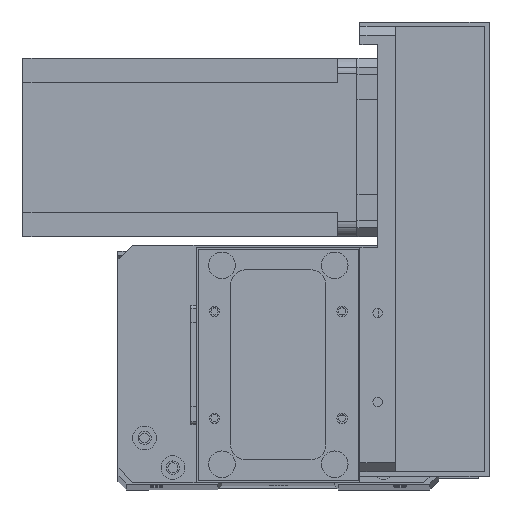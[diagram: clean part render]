
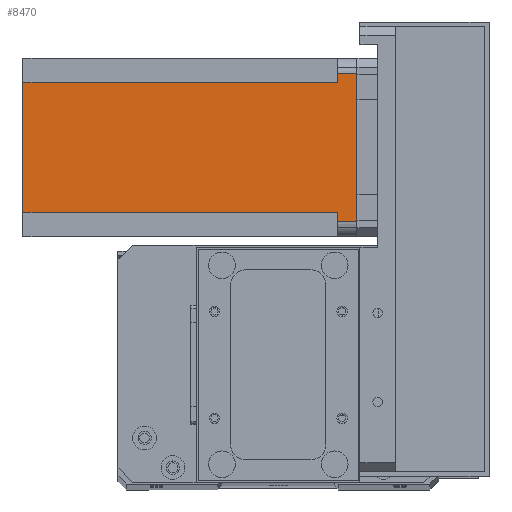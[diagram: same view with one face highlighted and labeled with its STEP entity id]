
A CAD part, top view. The second image highlights one B-rep face of the part: STEP entity #8470.
In plain terms, the highlighted planar face has unit normal (0, 0, 1) as drawn and (0, 1, 0) by its records, which use the part's own axes.
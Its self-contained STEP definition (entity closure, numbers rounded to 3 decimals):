
#599 = DIRECTION ( 'NONE',  ( 0., 0., 1. ) ) ;
#2016 = DIRECTION ( 'NONE',  ( -1., 0., 0. ) ) ;
#2239 = VERTEX_POINT ( 'NONE', #23855 ) ;
#2388 = CARTESIAN_POINT ( 'NONE',  ( 0., 60., -112.5 ) ) ;
#3643 = CARTESIAN_POINT ( 'NONE',  ( 8., 60., -6.5 ) ) ;
#3725 = CARTESIAN_POINT ( 'NONE',  ( 52., 60., -112.5 ) ) ;
#4324 = VECTOR ( 'NONE', #14341, 1000. ) ;
#4879 = VERTEX_POINT ( 'NONE', #19858 ) ;
#5841 = ORIENTED_EDGE ( 'NONE', *, *, #19171, .F. ) ;
#5899 = DIRECTION ( 'NONE',  ( -1., 0., 0. ) ) ;
#6715 = EDGE_CURVE ( 'NONE', #17629, #10622, #21297, .T. ) ;
#6745 = VERTEX_POINT ( 'NONE', #3643 ) ;
#7110 = DIRECTION ( 'NONE',  ( -1., 0., 0. ) ) ;
#7896 = DIRECTION ( 'NONE',  ( 0., 0., 1. ) ) ;
#8101 = LINE ( 'NONE', #18537, #13618 ) ;
#8470 = ADVANCED_FACE ( 'NONE', ( #24839 ), #24214, .T. ) ;
#8588 = CARTESIAN_POINT ( 'NONE',  ( 55., 60., 0. ) ) ;
#8849 = ORIENTED_EDGE ( 'NONE', *, *, #20771, .F. ) ;
#10156 = ORIENTED_EDGE ( 'NONE', *, *, #30274, .T. ) ;
#10189 = CARTESIAN_POINT ( 'NONE',  ( 52., 60., -6.5 ) ) ;
#10391 = EDGE_CURVE ( 'NONE', #6745, #22491, #23999, .T. ) ;
#10622 = VERTEX_POINT ( 'NONE', #30000 ) ;
#12224 = AXIS2_PLACEMENT_3D ( 'NONE', #28972, #21961, #7896 ) ;
#13106 = ORIENTED_EDGE ( 'NONE', *, *, #10391, .F. ) ;
#13618 = VECTOR ( 'NONE', #20874, 1000. ) ;
#13842 = EDGE_LOOP ( 'NONE', ( #18123, #14512, #8849, #5841, #10156, #13106, #17133, #26301 ) ) ;
#14341 = DIRECTION ( 'NONE',  ( 0., 0., -1. ) ) ;
#14403 = EDGE_CURVE ( 'NONE', #17629, #2239, #28587, .T. ) ;
#14416 = VECTOR ( 'NONE', #599, 1000. ) ;
#14512 = ORIENTED_EDGE ( 'NONE', *, *, #14403, .T. ) ;
#15156 = LINE ( 'NONE', #17048, #14416 ) ;
#15254 = CARTESIAN_POINT ( 'NONE',  ( 0., 60., 0. ) ) ;
#16101 = CARTESIAN_POINT ( 'NONE',  ( 8., 60., -6.5 ) ) ;
#16716 = CARTESIAN_POINT ( 'NONE',  ( 55., 60., -112.5 ) ) ;
#17048 = CARTESIAN_POINT ( 'NONE',  ( 52., 60., -112.5 ) ) ;
#17133 = ORIENTED_EDGE ( 'NONE', *, *, #24194, .T. ) ;
#17629 = VERTEX_POINT ( 'NONE', #8588 ) ;
#17675 = LINE ( 'NONE', #2388, #22421 ) ;
#18123 = ORIENTED_EDGE ( 'NONE', *, *, #6715, .F. ) ;
#18176 = VERTEX_POINT ( 'NONE', #3725 ) ;
#18537 = CARTESIAN_POINT ( 'NONE',  ( 5., 60., -112.5 ) ) ;
#19062 = VERTEX_POINT ( 'NONE', #21226 ) ;
#19171 = EDGE_CURVE ( 'NONE', #18176, #19062, #15156, .T. ) ;
#19848 = VECTOR ( 'NONE', #5899, 1000. ) ;
#19858 = CARTESIAN_POINT ( 'NONE',  ( 5., 60., -6.5 ) ) ;
#20771 = EDGE_CURVE ( 'NONE', #19062, #2239, #23143, .T. ) ;
#20874 = DIRECTION ( 'NONE',  ( 0., 0., 1. ) ) ;
#21226 = CARTESIAN_POINT ( 'NONE',  ( 52., 60., -6.5 ) ) ;
#21297 = LINE ( 'NONE', #15254, #19848 ) ;
#21961 = DIRECTION ( 'NONE',  ( 0., 1., 0. ) ) ;
#22388 = VECTOR ( 'NONE', #24247, 1000. ) ;
#22421 = VECTOR ( 'NONE', #7110, 1000. ) ;
#22491 = VERTEX_POINT ( 'NONE', #28106 ) ;
#23143 = LINE ( 'NONE', #10189, #22388 ) ;
#23267 = VECTOR ( 'NONE', #26789, 1000. ) ;
#23690 = LINE ( 'NONE', #16101, #29977 ) ;
#23855 = CARTESIAN_POINT ( 'NONE',  ( 55., 60., -6.5 ) ) ;
#23999 = LINE ( 'NONE', #24414, #23267 ) ;
#24194 = EDGE_CURVE ( 'NONE', #6745, #4879, #23690, .T. ) ;
#24214 = PLANE ( 'NONE',  #12224 ) ;
#24247 = DIRECTION ( 'NONE',  ( 1., 0., 0. ) ) ;
#24414 = CARTESIAN_POINT ( 'NONE',  ( 8., 60., -112.5 ) ) ;
#24839 = FACE_OUTER_BOUND ( 'NONE', #13842, .T. ) ;
#26301 = ORIENTED_EDGE ( 'NONE', *, *, #30175, .T. ) ;
#26789 = DIRECTION ( 'NONE',  ( 0., 0., -1. ) ) ;
#28106 = CARTESIAN_POINT ( 'NONE',  ( 8., 60., -112.5 ) ) ;
#28587 = LINE ( 'NONE', #16716, #4324 ) ;
#28972 = CARTESIAN_POINT ( 'NONE',  ( 0., 60., -112.5 ) ) ;
#29977 = VECTOR ( 'NONE', #2016, 1000. ) ;
#30000 = CARTESIAN_POINT ( 'NONE',  ( 5., 60., 0. ) ) ;
#30175 = EDGE_CURVE ( 'NONE', #4879, #10622, #8101, .T. ) ;
#30274 = EDGE_CURVE ( 'NONE', #18176, #22491, #17675, .T. ) ;
